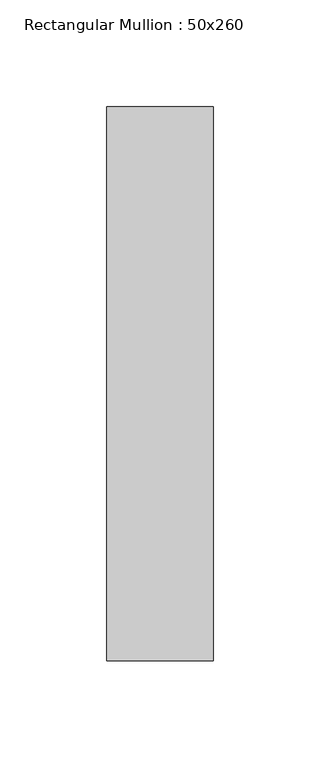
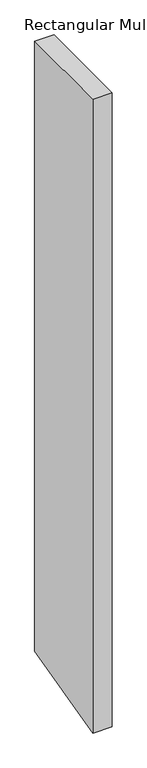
"""IFC4 building model written with IfcOpenShell, lengths in millimetres: member geometry, Rectangular Mullion : 50x260."""

from ifc_helpers import new_model, si_unit, frame, origin, place, context, project, spatial, polyline, outline, extrude, source, transform, mapped, element, save


def rectangular_mullion_50x260_719b65fe(model_context):
    return source(origin(), model_context, "Body", "SweptSolid", [
        extrude(outline(polyline([(-130.0, 0.0), (130.0, 0.0), (130.0, -1664.8109324), (-130.0, -1729.9836128), (-130.0, 0.0)])), frame((-50.0, 0.0, 0.0), z_axis=(1.0, 0.0, 0.0), x_axis=(0.0, 1.0, 0.0)), (0.0, 0.0, 1.0), 50.0),
    ])


if __name__ == "__main__":
    model = new_model("IFC4")
    model_context = context("Model", 3, world=origin())
    ifc_project = project(units=[si_unit("LENGTHUNIT", "METRE", prefix="MILLI")], contexts=[model_context])
    site = spatial("IfcSite", under=ifc_project)
    building = spatial("IfcBuilding", under=site)
    placement = place(None, origin())
    rectangular_mullion_50x260_shape = rectangular_mullion_50x260_719b65fe(model_context)
    element("IfcMember", 1, ObjectType="Rectangular Mullion : 50x260", at=placement, inside=building, context=model_context, shape_type="MappedRepresentation", body=[
        mapped(rectangular_mullion_50x260_shape, transform((0.0, 0.0, 0.0), x_axis=(1.0, 0.0, 0.0), y_axis=(0.0, 1.0, 0.0), z_axis=(0.0, 0.0, 1.0))),
    ])
    save(model, "model.ifc")
